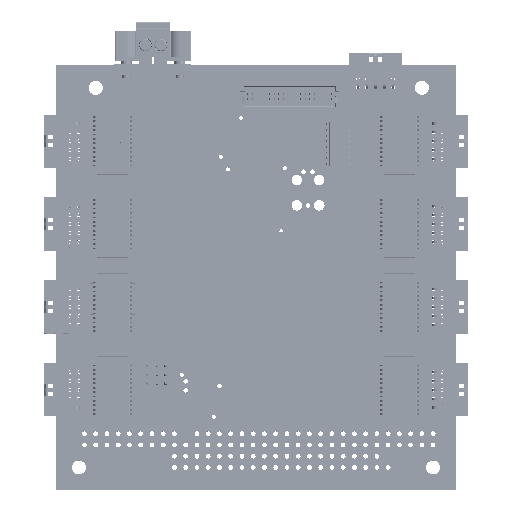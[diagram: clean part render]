
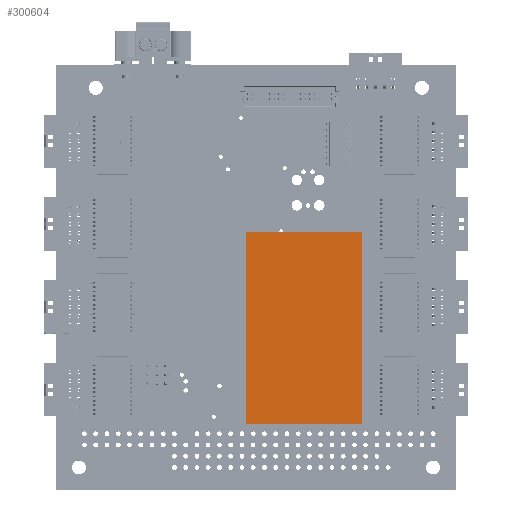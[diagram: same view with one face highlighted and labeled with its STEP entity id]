
A CAD part, top view. The second image highlights one B-rep face of the part: STEP entity #300604.
In plain terms, the highlighted planar face has unit normal (0, 0, 1) as drawn and (0, 1, 0) by its records, which use the part's own axes.
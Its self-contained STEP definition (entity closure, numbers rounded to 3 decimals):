
#300491 = VERTEX_POINT('',#300492);
#300492 = CARTESIAN_POINT('',(21.6,11.25,-13.125));
#300499 = PLANE('',#300500);
#300500 = AXIS2_PLACEMENT_3D('',#300501,#300502,#300503);
#300501 = CARTESIAN_POINT('',(13.125,5.75,13.125));
#300502 = DIRECTION('',(-0.544,0.839,0.));
#300503 = DIRECTION('',(-0.839,-0.544,0.));
#300511 = PLANE('',#300512);
#300512 = AXIS2_PLACEMENT_3D('',#300513,#300514,#300515);
#300513 = CARTESIAN_POINT('',(0.,-2.768,-13.125
    ));
#300514 = DIRECTION('',(0.,0.,1.));
#300515 = DIRECTION('',(1.,0.,0.));
#300523 = EDGE_CURVE('',#300524,#300491,#300526,.T.);
#300524 = VERTEX_POINT('',#300525);
#300525 = CARTESIAN_POINT('',(21.6,11.25,13.125));
#300526 = SURFACE_CURVE('',#300527,(#300531,#300538),.PCURVE_S1.);
#300527 = LINE('',#300528,#300529);
#300528 = CARTESIAN_POINT('',(21.6,11.25,13.125));
#300529 = VECTOR('',#300530,1.);
#300530 = DIRECTION('',(0.,0.,-1.));
#300531 = PCURVE('',#300499,#300532);
#300532 = DEFINITIONAL_REPRESENTATION('',(#300533),#300537);
#300533 = LINE('',#300534,#300535);
#300534 = CARTESIAN_POINT('',(-10.103,0.));
#300535 = VECTOR('',#300536,1.);
#300536 = DIRECTION('',(0.,-1.));
#300537 = ( GEOMETRIC_REPRESENTATION_CONTEXT(2) 
PARAMETRIC_REPRESENTATION_CONTEXT() REPRESENTATION_CONTEXT('2D SPACE',''
  ) );
#300538 = PCURVE('',#300539,#300544);
#300539 = PLANE('',#300540);
#300540 = AXIS2_PLACEMENT_3D('',#300541,#300542,#300543);
#300541 = CARTESIAN_POINT('',(-21.6,11.25,13.125));
#300542 = DIRECTION('',(0.,-1.,0.));
#300543 = DIRECTION('',(0.,0.,-1.));
#300544 = DEFINITIONAL_REPRESENTATION('',(#300545),#300549);
#300545 = LINE('',#300546,#300547);
#300546 = CARTESIAN_POINT('',(0.,43.2));
#300547 = VECTOR('',#300548,1.);
#300548 = DIRECTION('',(1.,0.));
#300549 = ( GEOMETRIC_REPRESENTATION_CONTEXT(2) 
PARAMETRIC_REPRESENTATION_CONTEXT() REPRESENTATION_CONTEXT('2D SPACE',''
  ) );
#300567 = PLANE('',#300568);
#300568 = AXIS2_PLACEMENT_3D('',#300569,#300570,#300571);
#300569 = CARTESIAN_POINT('',(0.,-2.768,13.125)
  );
#300570 = DIRECTION('',(0.,0.,1.));
#300571 = DIRECTION('',(1.,0.,0.));
#300604 = ADVANCED_FACE('',(#300605),#300539,.F.);
#300605 = FACE_BOUND('',#300606,.T.);
#300606 = EDGE_LOOP('',(#300607,#300630,#300658,#300679));
#300607 = ORIENTED_EDGE('',*,*,#300608,.T.);
#300608 = EDGE_CURVE('',#300491,#300609,#300611,.T.);
#300609 = VERTEX_POINT('',#300610);
#300610 = CARTESIAN_POINT('',(-21.6,11.25,-13.125));
#300611 = SURFACE_CURVE('',#300612,(#300616,#300623),.PCURVE_S1.);
#300612 = LINE('',#300613,#300614);
#300613 = CARTESIAN_POINT('',(-21.6,11.25,-13.125));
#300614 = VECTOR('',#300615,1.);
#300615 = DIRECTION('',(-1.,0.,0.));
#300616 = PCURVE('',#300539,#300617);
#300617 = DEFINITIONAL_REPRESENTATION('',(#300618),#300622);
#300618 = LINE('',#300619,#300620);
#300619 = CARTESIAN_POINT('',(26.25,0.));
#300620 = VECTOR('',#300621,1.);
#300621 = DIRECTION('',(0.,-1.));
#300622 = ( GEOMETRIC_REPRESENTATION_CONTEXT(2) 
PARAMETRIC_REPRESENTATION_CONTEXT() REPRESENTATION_CONTEXT('2D SPACE',''
  ) );
#300623 = PCURVE('',#300511,#300624);
#300624 = DEFINITIONAL_REPRESENTATION('',(#300625),#300629);
#300625 = LINE('',#300626,#300627);
#300626 = CARTESIAN_POINT('',(-21.6,14.018));
#300627 = VECTOR('',#300628,1.);
#300628 = DIRECTION('',(-1.,0.));
#300629 = ( GEOMETRIC_REPRESENTATION_CONTEXT(2) 
PARAMETRIC_REPRESENTATION_CONTEXT() REPRESENTATION_CONTEXT('2D SPACE',''
  ) );
#300630 = ORIENTED_EDGE('',*,*,#300631,.F.);
#300631 = EDGE_CURVE('',#300632,#300609,#300634,.T.);
#300632 = VERTEX_POINT('',#300633);
#300633 = CARTESIAN_POINT('',(-21.6,11.25,13.125));
#300634 = SURFACE_CURVE('',#300635,(#300639,#300646),.PCURVE_S1.);
#300635 = LINE('',#300636,#300637);
#300636 = CARTESIAN_POINT('',(-21.6,11.25,13.125));
#300637 = VECTOR('',#300638,1.);
#300638 = DIRECTION('',(0.,0.,-1.));
#300639 = PCURVE('',#300539,#300640);
#300640 = DEFINITIONAL_REPRESENTATION('',(#300641),#300645);
#300641 = LINE('',#300642,#300643);
#300642 = CARTESIAN_POINT('',(0.,0.));
#300643 = VECTOR('',#300644,1.);
#300644 = DIRECTION('',(1.,0.));
#300645 = ( GEOMETRIC_REPRESENTATION_CONTEXT(2) 
PARAMETRIC_REPRESENTATION_CONTEXT() REPRESENTATION_CONTEXT('2D SPACE',''
  ) );
#300646 = PCURVE('',#300647,#300652);
#300647 = PLANE('',#300648);
#300648 = AXIS2_PLACEMENT_3D('',#300649,#300650,#300651);
#300649 = CARTESIAN_POINT('',(-13.125,5.75,13.125));
#300650 = DIRECTION('',(0.544,0.839,0.));
#300651 = DIRECTION('',(-0.839,0.544,0.));
#300652 = DEFINITIONAL_REPRESENTATION('',(#300653),#300657);
#300653 = LINE('',#300654,#300655);
#300654 = CARTESIAN_POINT('',(10.103,0.));
#300655 = VECTOR('',#300656,1.);
#300656 = DIRECTION('',(0.,-1.));
#300657 = ( GEOMETRIC_REPRESENTATION_CONTEXT(2) 
PARAMETRIC_REPRESENTATION_CONTEXT() REPRESENTATION_CONTEXT('2D SPACE',''
  ) );
#300658 = ORIENTED_EDGE('',*,*,#300659,.F.);
#300659 = EDGE_CURVE('',#300524,#300632,#300660,.T.);
#300660 = SURFACE_CURVE('',#300661,(#300665,#300672),.PCURVE_S1.);
#300661 = LINE('',#300662,#300663);
#300662 = CARTESIAN_POINT('',(-21.6,11.25,13.125));
#300663 = VECTOR('',#300664,1.);
#300664 = DIRECTION('',(-1.,0.,0.));
#300665 = PCURVE('',#300539,#300666);
#300666 = DEFINITIONAL_REPRESENTATION('',(#300667),#300671);
#300667 = LINE('',#300668,#300669);
#300668 = CARTESIAN_POINT('',(0.,0.));
#300669 = VECTOR('',#300670,1.);
#300670 = DIRECTION('',(0.,-1.));
#300671 = ( GEOMETRIC_REPRESENTATION_CONTEXT(2) 
PARAMETRIC_REPRESENTATION_CONTEXT() REPRESENTATION_CONTEXT('2D SPACE',''
  ) );
#300672 = PCURVE('',#300567,#300673);
#300673 = DEFINITIONAL_REPRESENTATION('',(#300674),#300678);
#300674 = LINE('',#300675,#300676);
#300675 = CARTESIAN_POINT('',(-21.6,14.018));
#300676 = VECTOR('',#300677,1.);
#300677 = DIRECTION('',(-1.,0.));
#300678 = ( GEOMETRIC_REPRESENTATION_CONTEXT(2) 
PARAMETRIC_REPRESENTATION_CONTEXT() REPRESENTATION_CONTEXT('2D SPACE',''
  ) );
#300679 = ORIENTED_EDGE('',*,*,#300523,.T.);
